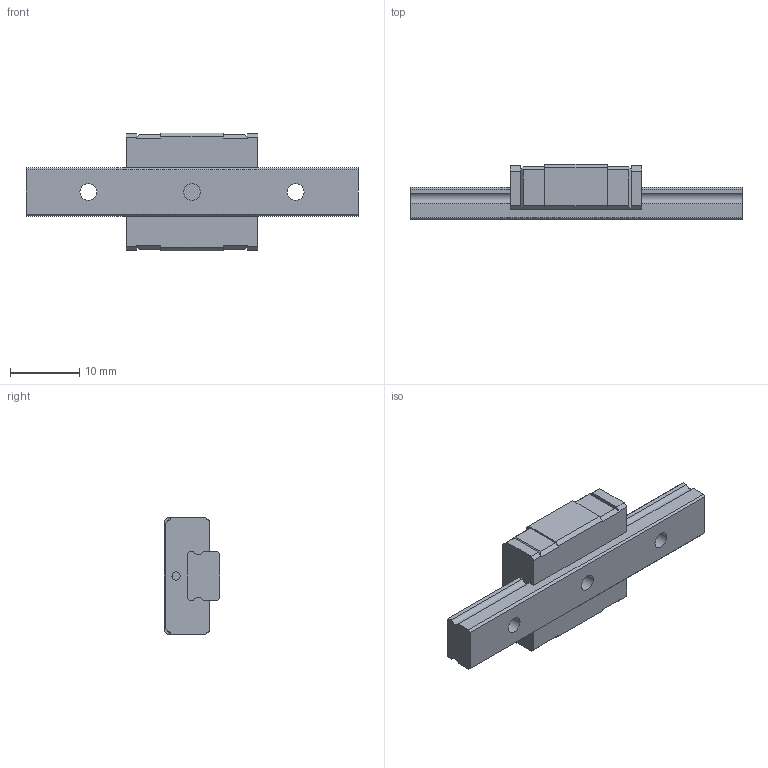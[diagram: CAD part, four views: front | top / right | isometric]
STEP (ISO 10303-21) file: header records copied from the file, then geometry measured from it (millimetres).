
FILE_DESCRIPTION(/* description */ ('STEP AP203'),/* implementation_level */ '2;1');
FILE_NAME(/* name */ 'RSX7SMUU-48LM_G9_0_Without grease nipple_14-5_0_0_0_1',/* time_stamp */ '2024-05-21T10:25:07+02:00',/* author */ ('License CC BY-ND 4.0'),/* organization */ ('CADENAS'),/* preprocessor_version */ 'ST-DEVELOPER v19.3',/* originating_system */ 'PARTsolutions',/* authorisation */ ' ');
FILE_SCHEMA (('CONFIG_CONTROL_DESIGN'));
Length unit declared in the file: millimetre
Products named in the file (3): RSX7SMUU-48LM_G9_0_Without grease nipple_14-5_0_0_0_1; RSX7M489 Track; RSX7SMUU1 Slider
Assembly tree (2 placements, depth 2):
  RSX7SMUU-48LM_G9_0_Without grease nipple_14-5_0_0_0_1
    RSX7M489 Track
    RSX7SMUU1 Slider
Bounding box: 48 x 8 x 17 mm (x, y, z)
Volume: 2990.3 mm3; surface area: 2562.5 mm2
Topology: 2 solids, 2 shells, 91 faces, 244 edges, 162 vertices
Faces by surface type: plane 73, cylinder 14, cone 4
Full cylindrical faces by diameter (mm): 1.2 x2, 1.567 x2, 2.4 x3, 4.2 x3
Entity records: 2801 total; most frequent: CARTESIAN_POINT 480, ORIENTED_EDGE 452, DIRECTION 444, EDGE_CURVE 226, LINE 196, VECTOR 196, VERTEX_POINT 160, AXIS2_PLACEMENT_3D 124
